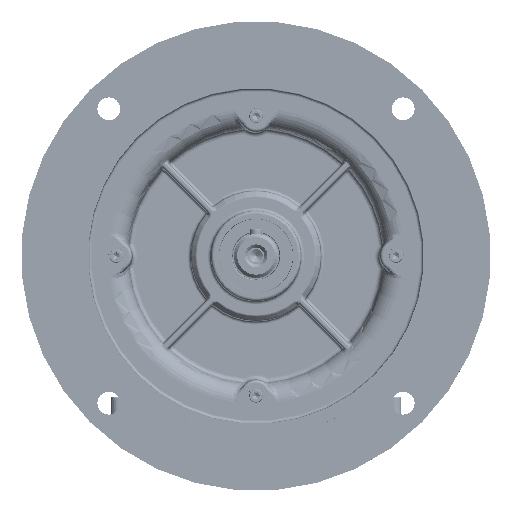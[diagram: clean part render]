
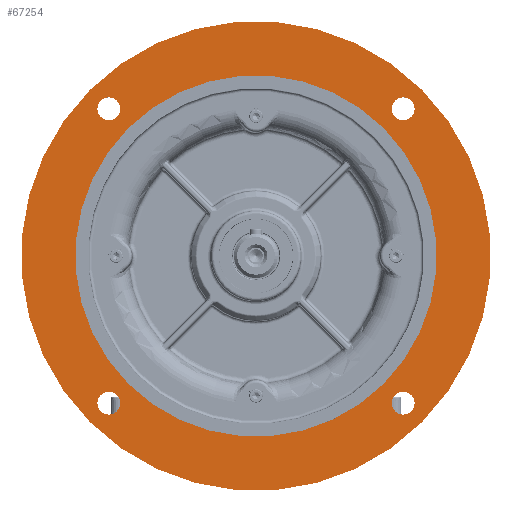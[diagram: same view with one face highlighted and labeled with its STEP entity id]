
A CAD part, top view. The second image highlights one B-rep face of the part: STEP entity #67254.
In plain terms, the highlighted planar face has unit normal (0, 0, 1).
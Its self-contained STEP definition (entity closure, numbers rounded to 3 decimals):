
#57921=FACE_BOUND('',#91204,.T.);
#57922=FACE_BOUND('',#91205,.T.);
#57923=FACE_BOUND('',#91206,.T.);
#57924=FACE_BOUND('',#91207,.T.);
#57925=FACE_BOUND('',#91208,.T.);
#57926=FACE_BOUND('',#91209,.T.);
#59977=PLANE('',#243471);
#67254=ADVANCED_FACE('',(#57921,#57922,#57923,#57924,#57925,#57926),#59977,
 .T.);
#91204=EDGE_LOOP('',(#106725));
#91205=EDGE_LOOP('',(#106726));
#91206=EDGE_LOOP('',(#106727));
#91207=EDGE_LOOP('',(#106728));
#91208=EDGE_LOOP('',(#106729));
#91209=EDGE_LOOP('',(#106730));
#106725=ORIENTED_EDGE('',*,*,#178813,.F.);
#106726=ORIENTED_EDGE('',*,*,#178814,.F.);
#106727=ORIENTED_EDGE('',*,*,#178815,.F.);
#106728=ORIENTED_EDGE('',*,*,#178816,.F.);
#106729=ORIENTED_EDGE('',*,*,#178810,.T.);
#106730=ORIENTED_EDGE('',*,*,#178812,.T.);
#161247=VERTEX_POINT('',#326931);
#161249=VERTEX_POINT('',#326936);
#161250=VERTEX_POINT('',#326939);
#161251=VERTEX_POINT('',#326941);
#161252=VERTEX_POINT('',#326943);
#161253=VERTEX_POINT('',#326945);
#178810=EDGE_CURVE('',#161247,#161247,#225579,.T.);
#178812=EDGE_CURVE('',#161249,#161249,#225581,.T.);
#178813=EDGE_CURVE('',#161250,#161250,#225582,.T.);
#178814=EDGE_CURVE('',#161251,#161251,#225583,.T.);
#178815=EDGE_CURVE('',#161252,#161252,#225584,.T.);
#178816=EDGE_CURVE('',#161253,#161253,#225585,.T.);
#225579=CIRCLE('',#243462,149.5);
#225581=CIRCLE('',#243465,115.);
#225582=CIRCLE('',#243467,7.25);
#225583=CIRCLE('',#243468,7.25);
#225584=CIRCLE('',#243469,7.25);
#225585=CIRCLE('',#243470,7.25);
#243462=AXIS2_PLACEMENT_3D('',#326930,#265850,#265851);
#243465=AXIS2_PLACEMENT_3D('',#326935,#265856,#265857);
#243467=AXIS2_PLACEMENT_3D('',#326938,#265860,#265861);
#243468=AXIS2_PLACEMENT_3D('',#326940,#265862,#265863);
#243469=AXIS2_PLACEMENT_3D('',#326942,#265864,#265865);
#243470=AXIS2_PLACEMENT_3D('',#326944,#265866,#265867);
#243471=AXIS2_PLACEMENT_3D('',#326946,#265868,#265869);
#265850=DIRECTION('',(0.,0.,1.));
#265851=DIRECTION('',(0.707,0.707,0.));
#265856=DIRECTION('',(0.,0.,-1.));
#265857=DIRECTION('',(0.707,0.707,0.));
#265860=DIRECTION('',(0.,0.,1.));
#265861=DIRECTION('',(-0.707,-0.707,0.));
#265862=DIRECTION('',(0.,0.,1.));
#265863=DIRECTION('',(-0.707,0.707,0.));
#265864=DIRECTION('',(0.,0.,1.));
#265865=DIRECTION('',(0.707,0.707,0.));
#265866=DIRECTION('',(0.,0.,1.));
#265867=DIRECTION('',(0.707,-0.707,0.));
#265868=DIRECTION('',(0.,0.,1.));
#265869=DIRECTION('',(0.707,-0.707,0.));
#326930=CARTESIAN_POINT('',(0.,0.,16.));
#326931=CARTESIAN_POINT('',(105.712,105.712,16.));
#326935=CARTESIAN_POINT('',(0.,0.,16.));
#326936=CARTESIAN_POINT('',(81.317,81.317,16.));
#326938=CARTESIAN_POINT('',(93.692,-93.692,16.));
#326939=CARTESIAN_POINT('',(88.565,-98.818,16.));
#326940=CARTESIAN_POINT('',(-93.692,-93.692,16.));
#326941=CARTESIAN_POINT('',(-98.818,-88.565,16.));
#326942=CARTESIAN_POINT('',(-93.692,93.692,16.));
#326943=CARTESIAN_POINT('',(-88.565,98.818,16.));
#326944=CARTESIAN_POINT('',(93.692,93.692,16.));
#326945=CARTESIAN_POINT('',(98.818,88.565,16.));
#326946=CARTESIAN_POINT('',(0.,0.,16.));
